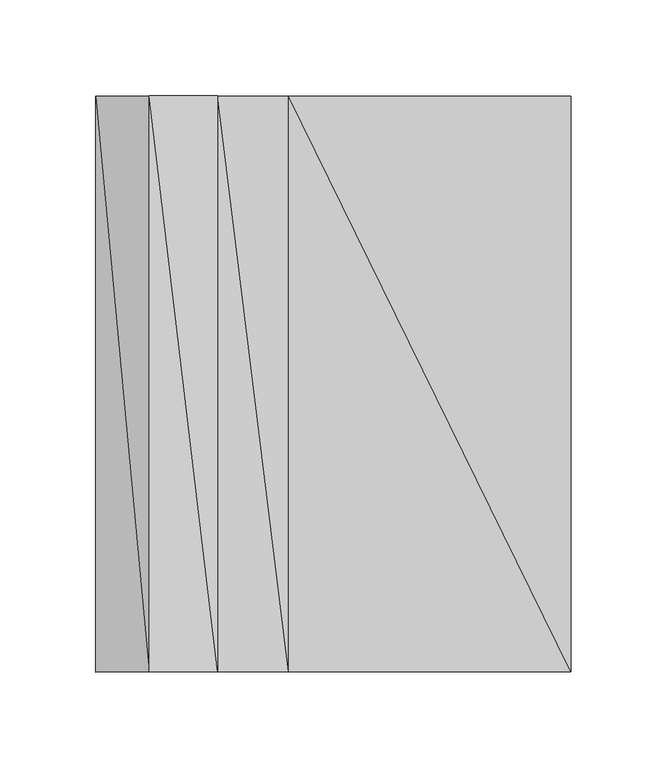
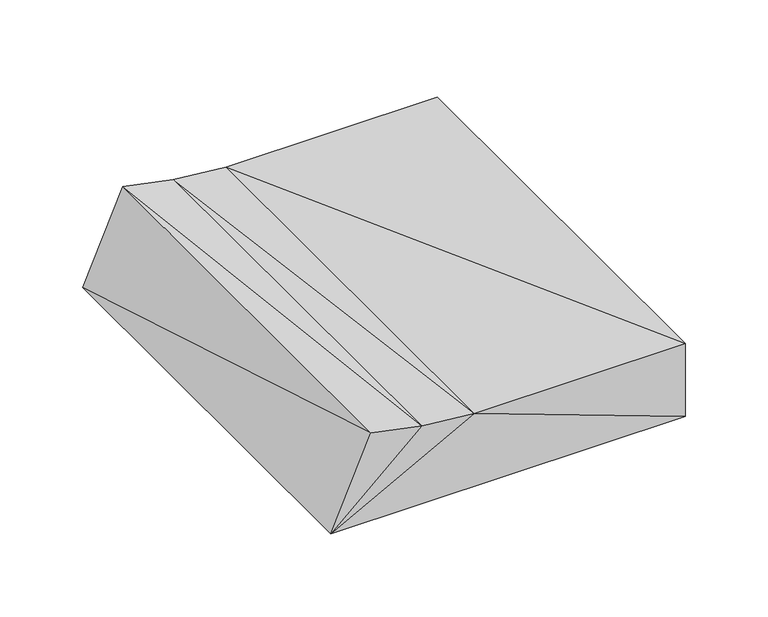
"""IFC4 building model written with IfcOpenShell, lengths in millimetres: geographic element geometry, TempEnscape AssetDefinition - Notebook 003 Stack : TempEnscape AssetDefinition - Notebook 003 Stack."""

from ifc_helpers import new_model, si_unit, origin, place, context, project, spatial, faceted_brep, source, transform, mapped, element, save


def geographic_element_84cf364c(model_context):
    return source(origin(), model_context, "Body", "Brep", [
        faceted_brep([(125.067994, 150.000006, 0.0), (-122.4669963, -150.000006, 0.0), (-122.4669963, 150.000006, 0.0), (125.067994, -150.000006, 0.0), (-94.6130008, 150.000006, 64.7749975), (-59.0680018, -150.000006, 57.4730001), (-59.0680018, 150.000006, 57.4730001), (-94.6130008, -150.000006, 64.7749975), (125.067994, 150.000006, 54.0000014), (125.067994, -150.000006, 54.0000014), (-22.1200008, 150.000006, 54.0120006), (-22.1200008, -150.000006, 54.0120006)], [[[0, 1, 2]], [[1, 0, 3]], [[4, 5, 6]], [[5, 4, 7]], [[7, 1, 5]], [[8, 3, 0]], [[3, 8, 9]], [[8, 0, 10]], [[7, 2, 1]], [[2, 7, 4]], [[10, 9, 8]], [[9, 10, 11]], [[6, 11, 10]], [[11, 6, 5]], [[5, 1, 11]], [[11, 3, 9]], [[11, 1, 3]], [[6, 2, 4]], [[10, 2, 6]], [[10, 0, 2]]]),
    ])


if __name__ == "__main__":
    model = new_model("IFC4")
    model_context = context("Model", 3, world=origin())
    ifc_project = project(units=[si_unit("LENGTHUNIT", "METRE", prefix="MILLI")], contexts=[model_context])
    site = spatial("IfcSite", under=ifc_project)
    building = spatial("IfcBuilding", under=site)
    placement = place(None, origin())
    geographic_element_shape = geographic_element_84cf364c(model_context)
    element("IfcGeographicElement", 1, ObjectType="TempEnscape AssetDefinition - Notebook 003 Stack : TempEnscape AssetDefinition - Notebook 003 Stack", at=placement, inside=building, context=model_context, shape_type="MappedRepresentation", body=[
        mapped(geographic_element_shape, transform((0.0, 0.0, 0.0), x_axis=(1.0, 0.0, 0.0), y_axis=(0.0, 1.0, 0.0), z_axis=(0.0, 0.0, 1.0))),
    ])
    save(model, "model.ifc")
